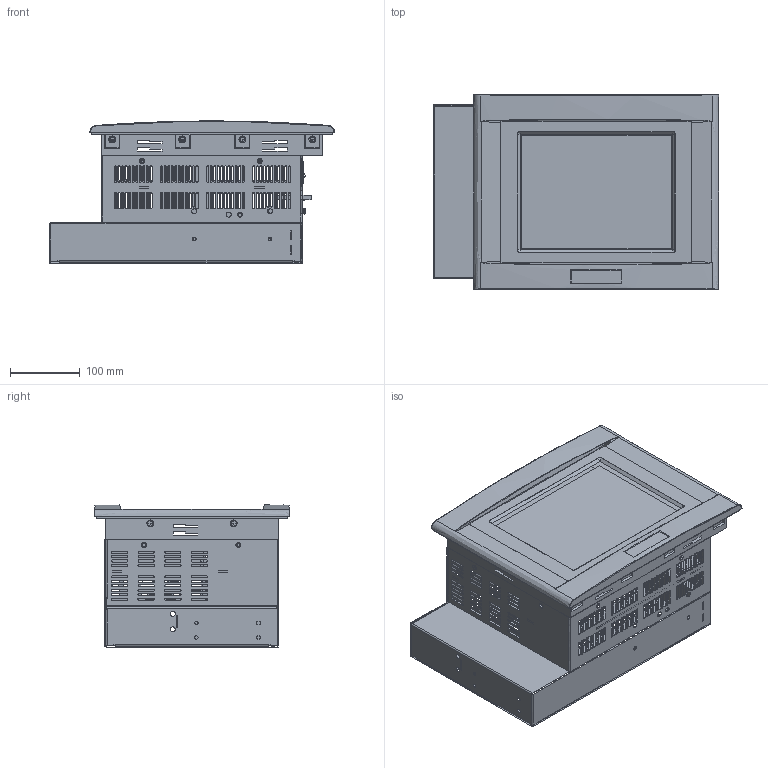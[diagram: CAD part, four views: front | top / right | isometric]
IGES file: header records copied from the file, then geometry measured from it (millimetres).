
Start section:  PTC IGES file: hp_10_full.igs
Global section: file name: hp_10_full.igs; native system: Pro/ENGINEER by Parametric Technology Corporation; preprocessor: 2000100; author: srollman; organization: Unknown; date: 050107.083121; units: inch
Bounding box: 407.94 x 279.4 x 203.27 mm (x, y, z)
Surface area: 490886.2 mm2 (no closed solid volume)
Topology: 0 solids, 0 shells, 210 faces, 4285 edges, 4282 vertices
Faces by surface type: bspline 157, revolution 53
